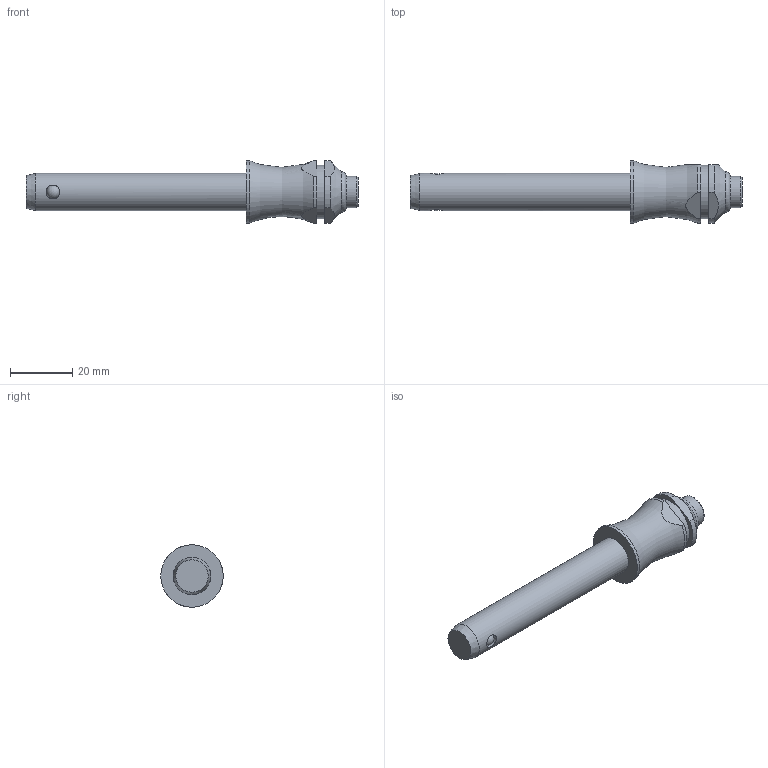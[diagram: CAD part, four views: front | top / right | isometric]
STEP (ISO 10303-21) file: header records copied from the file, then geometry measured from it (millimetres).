
FILE_DESCRIPTION( ( 'STEP AP203' ), '1' );
FILE_NAME( 'C:/Temp/Ganter_Step_05_03_2020/data/3_1/gn113_3/Stainless Steel-Ball lock pin GN 113.3-12-60 (activated).stp', '2020-03-12T08:18:45', ( 'License CC BY-ND 4.0' ), ( 'CADENAS' ), ' ', 'PARTsolutions', ' ' );
FILE_SCHEMA( ( 'CONFIG_CONTROL_DESIGN' ) );
Length unit declared in the file: millimetre
Products named in the file (1): _Stainless Steel-Ball lock pin GN 113.3-12-60 (activated)
Bounding box: 106.35 x 20 x 20 mm (x, y, z)
Volume: 15589.9 mm3; surface area: 5178.3 mm2
Topology: 1 solids, 1 shells, 30 faces, 72 edges, 45 vertices
Faces by surface type: cylinder 12, plane 11, cone 3, torus 2, sphere 2
Full cylindrical faces by diameter (mm): 4.4 x2, 10 x1, 12 x1, 17 x1, 20 x1
Entity records: 1010 total; most frequent: CARTESIAN_POINT 360, DIRECTION 130, ORIENTED_EDGE 102, AXIS2_PLACEMENT_3D 56, EDGE_CURVE 51, EDGE_LOOP 46, VERTEX_POINT 40, FACE_OUTER_BOUND 38
